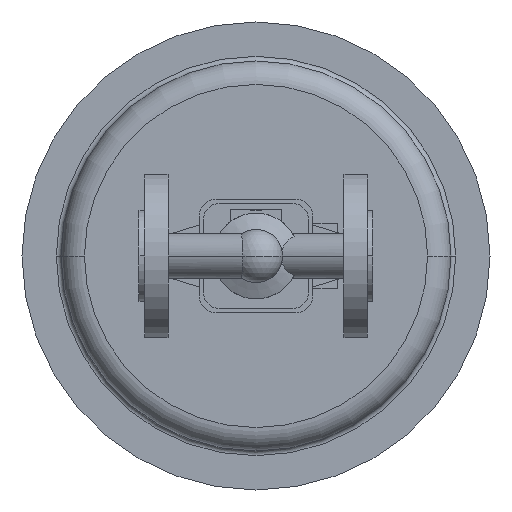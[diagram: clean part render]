
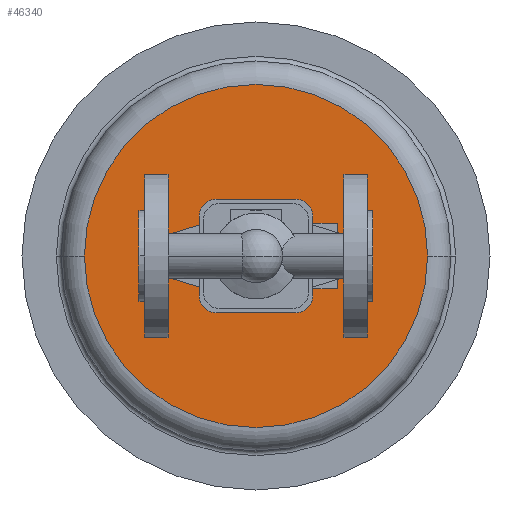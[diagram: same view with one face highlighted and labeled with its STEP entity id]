
A CAD part, front view. The second image highlights one B-rep face of the part: STEP entity #46340.
In plain terms, the highlighted planar face has unit normal (0, -1, 0).
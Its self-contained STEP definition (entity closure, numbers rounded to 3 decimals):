
#45510=CARTESIAN_POINT('',(56.55,533.,0.));
#45520=VERTEX_POINT('',#45510);
#45550=CARTESIAN_POINT('',(75.,533.,0.));
#45560=DIRECTION('',(0.,1.,0.));
#45570=DIRECTION('',(1.,0.,0.));
#45580=AXIS2_PLACEMENT_3D('',#45550,#45560,#45570);
#45590=CIRCLE('',#45580,18.45);
#45600=CARTESIAN_POINT('',(93.45,533.,0.));
#45610=VERTEX_POINT('',#45600);
#45620=EDGE_CURVE('',#45520,#45610,#45590,.T.);
#45750=CARTESIAN_POINT('',(130.,533.,0.));
#45760=DIRECTION('',(0.,-1.,0.));
#45770=DIRECTION('',(-1.,0.,0.));
#45780=AXIS2_PLACEMENT_3D('',#45750,#45760,#45770);
#45790=PLANE('',#45780);
#45800=ORIENTED_EDGE('',*,*,#45620,.T.);
#45810=EDGE_CURVE('',#45610,#45520,#45590,.T.);
#45820=ORIENTED_EDGE('',*,*,#45810,.T.);
#45830=EDGE_LOOP('',(#45820,#45800));
#45840=FACE_BOUND('',#45830,.T.);
#45850=CARTESIAN_POINT('',(25.,533.,0.));
#45860=DIRECTION('',(0.,1.,0.));
#45870=DIRECTION('',(1.,0.,0.));
#45880=AXIS2_PLACEMENT_3D('',#45850,#45860,#45870);
#45890=CIRCLE('',#45880,15.);
#45900=CARTESIAN_POINT('',(10.,533.,0.));
#45910=VERTEX_POINT('',#45900);
#45920=CARTESIAN_POINT('',(40.,533.,0.));
#45930=VERTEX_POINT('',#45920);
#45940=EDGE_CURVE('',#45910,#45930,#45890,.T.);
#45950=ORIENTED_EDGE('',*,*,#45940,.T.);
#45960=EDGE_CURVE('',#45930,#45910,#45890,.T.);
#45970=ORIENTED_EDGE('',*,*,#45960,.T.);
#45980=EDGE_LOOP('',(#45970,#45950));
#45990=FACE_BOUND('',#45980,.T.);
#46000=CARTESIAN_POINT('',(125.,533.,0.));
#46010=DIRECTION('',(0.,1.,0.));
#46020=DIRECTION('',(1.,0.,0.));
#46030=AXIS2_PLACEMENT_3D('',#46000,#46010,#46020);
#46040=CIRCLE('',#46030,15.);
#46050=CARTESIAN_POINT('',(140.,533.,0.));
#46060=VERTEX_POINT('',#46050);
#46070=CARTESIAN_POINT('',(110.,533.,0.));
#46080=VERTEX_POINT('',#46070);
#46090=EDGE_CURVE('',#46060,#46080,#46040,.T.);
#46100=ORIENTED_EDGE('',*,*,#46090,.T.);
#46110=EDGE_CURVE('',#46080,#46060,#46040,.T.);
#46120=ORIENTED_EDGE('',*,*,#46110,.T.);
#46130=EDGE_LOOP('',(#46120,#46100));
#46140=FACE_BOUND('',#46130,.T.);
#46150=CARTESIAN_POINT('',(75.,533.,0.));
#46160=DIRECTION('',(0.,1.,0.));
#46170=DIRECTION('',(1.,0.,0.));
#46180=AXIS2_PLACEMENT_3D('',#46150,#46160,#46170);
#46190=CIRCLE('',#46180,110.);
#46200=CARTESIAN_POINT('',(75.,533.,110.));
#46210=VERTEX_POINT('',#46200);
#46220=CARTESIAN_POINT('',(185.,533.,0.));
#46230=VERTEX_POINT('',#46220);
#46240=EDGE_CURVE('',#46210,#46230,#46190,.T.);
#46250=ORIENTED_EDGE('',*,*,#46240,.F.);
#46260=CARTESIAN_POINT('',(-35.,533.,0.));
#46270=VERTEX_POINT('',#46260);
#46280=EDGE_CURVE('',#46230,#46270,#46190,.T.);
#46290=ORIENTED_EDGE('',*,*,#46280,.F.);
#46300=EDGE_CURVE('',#46270,#46210,#46190,.T.);
#46310=ORIENTED_EDGE('',*,*,#46300,.F.);
#46320=EDGE_LOOP('',(#46310,#46290,#46250));
#46330=FACE_OUTER_BOUND('',#46320,.T.);
#46340=ADVANCED_FACE('',(#45840,#45990,#46140,#46330),#45790,.T.);
